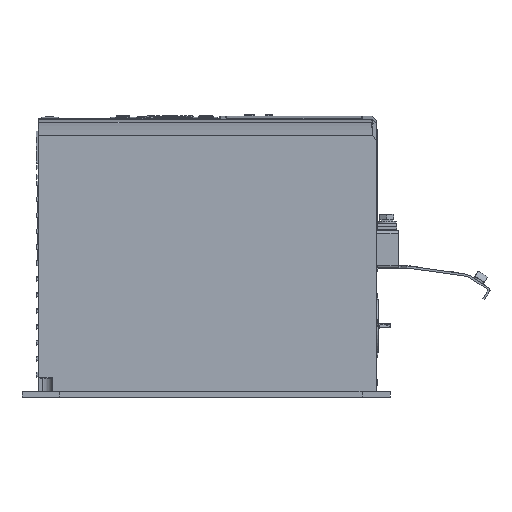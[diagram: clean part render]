
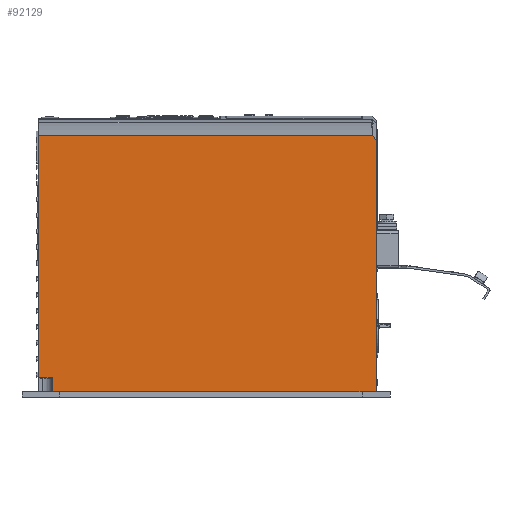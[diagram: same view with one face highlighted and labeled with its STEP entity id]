
A CAD part, left-side view. The second image highlights one B-rep face of the part: STEP entity #92129.
In plain terms, the highlighted planar face has unit normal (-1, 0, 0).
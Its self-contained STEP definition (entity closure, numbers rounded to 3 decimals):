
#24432=DIRECTION('',(0.,0.,-1.));
#24433=VECTOR('',#24432,183.383);
#24434=CARTESIAN_POINT('',(-130.54,-257.75,187.383));
#24435=LINE('',#24434,#24433);
#24439=DIRECTION('',(0.,1.,0.));
#24440=VECTOR('',#24439,235.5);
#24441=CARTESIAN_POINT('',(-130.54,-257.75,4.));
#24442=LINE('',#24441,#24440);
#24446=DIRECTION('',(0.,0.,-1.));
#24447=VECTOR('',#24446,9.9);
#24448=CARTESIAN_POINT('',(-130.54,-22.25,13.9));
#24449=LINE('',#24448,#24447);
#24453=CARTESIAN_POINT('',(-130.54,-21.9,13.9));
#24454=DIRECTION('',(1.,0.,0.));
#24455=DIRECTION('',(0.,0.,1.));
#24456=AXIS2_PLACEMENT_3D('',#24453,#24454,#24455);
#24461=DIRECTION('',(0.,-1.,0.));
#24462=VECTOR('',#24461,9.65);
#24463=CARTESIAN_POINT('',(-130.54,-12.25,14.25));
#24464=LINE('',#24463,#24462);
#24468=DIRECTION('',(0.,0.,1.));
#24469=VECTOR('',#24468,176.264);
#24470=CARTESIAN_POINT('',(-130.54,-12.25,14.25));
#24471=LINE('',#24470,#24469);
#24475=DIRECTION('',(0.,-1.,0.));
#24476=VECTOR('',#24475,242.348);
#24477=CARTESIAN_POINT('',(-130.54,-12.25,190.514));
#24478=LINE('',#24477,#24476);
#24482=CARTESIAN_POINT('',(-130.54,-254.598,
190.514));
#24483=CARTESIAN_POINT('',(-130.54,-254.619,
190.513));
#24484=CARTESIAN_POINT('',(-130.54,-254.658,
190.507));
#24485=CARTESIAN_POINT('',(-130.54,-254.715,
190.482));
#24486=CARTESIAN_POINT('',(-130.54,-254.748,190.457));
#24487=CARTESIAN_POINT('',(-130.54,-254.763,190.442));
#24492=CARTESIAN_POINT('',(-130.54,-254.763,190.442));
#24493=CARTESIAN_POINT('',(-130.54,-255.088,190.122));
#24494=CARTESIAN_POINT('',(-130.54,-255.737,189.482));
#24495=CARTESIAN_POINT('',(-130.54,-256.706,188.526));
#24496=CARTESIAN_POINT('',(-130.54,-257.35,187.891));
#24497=CARTESIAN_POINT('',(-130.54,-257.671,187.573));
#24502=CARTESIAN_POINT('',(-130.54,-257.671,187.573));
#24503=CARTESIAN_POINT('',(-130.54,-257.684,187.561));
#24504=CARTESIAN_POINT('',(-130.54,-257.706,187.535));
#24505=CARTESIAN_POINT('',(-130.54,-257.731,187.488));
#24506=CARTESIAN_POINT('',(-130.54,-257.747,187.436));
#24507=CARTESIAN_POINT('',(-130.54,-257.75,187.401));
#24508=CARTESIAN_POINT('',(-130.54,-257.75,187.383));
#50295=CARTESIAN_POINT('',(-130.54,-254.598,
190.514));
#56979=CARTESIAN_POINT('',(-130.54,-12.25,14.25));
#56980=CARTESIAN_POINT('',(-130.54,-12.25,190.514));
#56981=VERTEX_POINT('',#56979);
#56982=VERTEX_POINT('',#56980);
#56983=CARTESIAN_POINT('',(-130.54,-22.25,4.));
#56985=VERTEX_POINT('',#56983);
#56989=CARTESIAN_POINT('',(-130.54,-22.25,13.9));
#56990=VERTEX_POINT('',#56989);
#56991=CARTESIAN_POINT('',(-130.54,-21.9,14.25));
#56992=VERTEX_POINT('',#56991);
#57162=CARTESIAN_POINT('',(-130.54,-257.75,4.));
#57164=VERTEX_POINT('',#57162);
#57165=CARTESIAN_POINT('',(-130.54,-257.75,187.383));
#57166=VERTEX_POINT('',#57165);
#57183=VERTEX_POINT('',#50295);
#57186=VERTEX_POINT('',#24487);
#57187=VERTEX_POINT('',#24497);
#92105=CARTESIAN_POINT('',(-130.54,-258.,4.));
#92106=DIRECTION('',(-1.,0.,0.));
#92107=DIRECTION('',(0.,0.,1.));
#92108=AXIS2_PLACEMENT_3D('',#92105,#92106,#92107);
#92109=PLANE('',#92108);
#92110=ORIENTED_EDGE('',*,*,#62951,.T.);
#92111=ORIENTED_EDGE('',*,*,#62987,.T.);
#92113=ORIENTED_EDGE('',*,*,#92112,.F.);
#92115=ORIENTED_EDGE('',*,*,#92114,.F.);
#92117=ORIENTED_EDGE('',*,*,#92116,.F.);
#92119=ORIENTED_EDGE('',*,*,#92118,.T.);
#92121=ORIENTED_EDGE('',*,*,#92120,.T.);
#92123=ORIENTED_EDGE('',*,*,#92122,.T.);
#92125=ORIENTED_EDGE('',*,*,#92124,.T.);
#92126=ORIENTED_EDGE('',*,*,#92090,.T.);
#92127=EDGE_LOOP('',(#92110,#92111,#92113,#92115,#92117,#92119,#92121,#92123,
#92125,#92126));
#92128=FACE_OUTER_BOUND('',#92127,.F.);
#92129=ADVANCED_FACE('',(#92128),#92109,.T.);
#24457=CIRCLE('',#24456,0.35);
#24488=B_SPLINE_CURVE_WITH_KNOTS('',3,(#24482,#24483,#24484,#24485,#24486,
#24487),.UNSPECIFIED.,.F.,.F.,(4,1,1,4),(0.,0.333,
0.667,1.),.UNSPECIFIED.);
#24498=B_SPLINE_CURVE_WITH_KNOTS('',3,(#24492,#24493,#24494,#24495,#24496,
#24497),.UNSPECIFIED.,.F.,.F.,(4,1,1,4),(0.,0.333,
0.667,1.),.UNSPECIFIED.);
#24509=B_SPLINE_CURVE_WITH_KNOTS('',3,(#24502,#24503,#24504,#24505,#24506,
#24507,#24508),.UNSPECIFIED.,.F.,.F.,(4,1,1,1,4),(0.,0.25,0.5,0.75,
1.),.UNSPECIFIED.);
#62951=EDGE_CURVE('',#57166,#57164,#24435,.T.);
#62987=EDGE_CURVE('',#57164,#56985,#24442,.T.);
#92090=EDGE_CURVE('',#57187,#57166,#24509,.T.);
#92112=EDGE_CURVE('',#56990,#56985,#24449,.T.);
#92114=EDGE_CURVE('',#56992,#56990,#24457,.T.);
#92116=EDGE_CURVE('',#56981,#56992,#24464,.T.);
#92118=EDGE_CURVE('',#56981,#56982,#24471,.T.);
#92120=EDGE_CURVE('',#56982,#57183,#24478,.T.);
#92122=EDGE_CURVE('',#57183,#57186,#24488,.T.);
#92124=EDGE_CURVE('',#57186,#57187,#24498,.T.);
